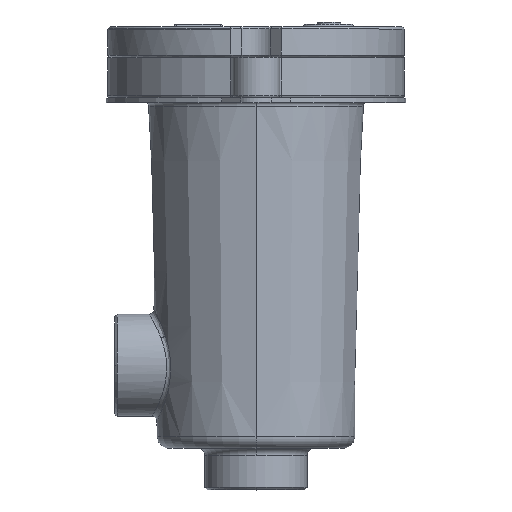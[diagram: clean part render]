
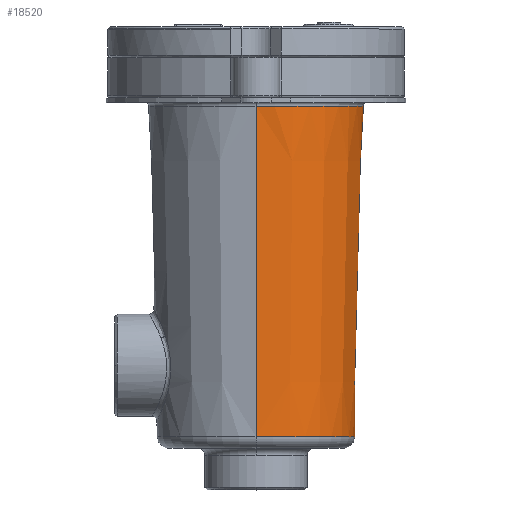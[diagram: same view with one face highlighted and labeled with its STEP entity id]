
A CAD part, top view. The second image highlights one B-rep face of the part: STEP entity #18520.
In plain terms, the highlighted conical face has half-angle 1.5 degrees and reference radius 41.571 mm.
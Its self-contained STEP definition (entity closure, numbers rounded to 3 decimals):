
#18370 = TOROIDAL_SURFACE('',#18371,47.215,2.);
#18371 = AXIS2_PLACEMENT_3D('',#18372,#18373,#18374);
#18372 = CARTESIAN_POINT('',(0.,161.5,0.));
#18373 = DIRECTION('',(-0.,-1.,-0.));
#18374 = DIRECTION('',(0.,0.,-1.));
#18414 = VERTEX_POINT('',#18415);
#18415 = CARTESIAN_POINT('',(0.,161.552,-45.216));
#18437 = EDGE_CURVE('',#18414,#18438,#18440,.T.);
#18438 = VERTEX_POINT('',#18439);
#18439 = CARTESIAN_POINT('',(0.,161.552,45.216));
#18440 = SURFACE_CURVE('',#18441,(#18446,#18453),.PCURVE_S1.);
#18441 = CIRCLE('',#18442,45.216);
#18442 = AXIS2_PLACEMENT_3D('',#18443,#18444,#18445);
#18443 = CARTESIAN_POINT('',(0.,161.552,0.));
#18444 = DIRECTION('',(0.,-1.,0.));
#18445 = DIRECTION('',(0.,0.,-1.));
#18446 = PCURVE('',#18370,#18447);
#18447 = DEFINITIONAL_REPRESENTATION('',(#18448),#18452);
#18448 = LINE('',#18449,#18450);
#18449 = CARTESIAN_POINT('',(0.,3.168));
#18450 = VECTOR('',#18451,1.);
#18451 = DIRECTION('',(1.,0.));
#18452 = ( GEOMETRIC_REPRESENTATION_CONTEXT(2) 
PARAMETRIC_REPRESENTATION_CONTEXT() REPRESENTATION_CONTEXT('2D SPACE',''
  ) );
#18453 = PCURVE('',#18454,#18459);
#18454 = CONICAL_SURFACE('',#18455,41.571,0.026);
#18455 = AXIS2_PLACEMENT_3D('',#18456,#18457,#18458);
#18456 = CARTESIAN_POINT('',(0.,22.369,0.));
#18457 = DIRECTION('',(0.,1.,0.));
#18458 = DIRECTION('',(0.,0.,1.));
#18459 = DEFINITIONAL_REPRESENTATION('',(#18460),#18464);
#18460 = LINE('',#18461,#18462);
#18461 = CARTESIAN_POINT('',(3.142,139.183));
#18462 = VECTOR('',#18463,1.);
#18463 = DIRECTION('',(-1.,0.));
#18464 = ( GEOMETRIC_REPRESENTATION_CONTEXT(2) 
PARAMETRIC_REPRESENTATION_CONTEXT() REPRESENTATION_CONTEXT('2D SPACE',''
  ) );
#18509 = CONICAL_SURFACE('',#18510,41.571,0.026);
#18510 = AXIS2_PLACEMENT_3D('',#18511,#18512,#18513);
#18511 = CARTESIAN_POINT('',(0.,22.369,0.));
#18512 = DIRECTION('',(0.,1.,0.));
#18513 = DIRECTION('',(0.,0.,1.));
#18520 = ADVANCED_FACE('',(#18521),#18454,.T.);
#18521 = FACE_BOUND('',#18522,.T.);
#18522 = EDGE_LOOP('',(#18523,#18554,#18575,#18576));
#18523 = ORIENTED_EDGE('',*,*,#18524,.F.);
#18524 = EDGE_CURVE('',#18525,#18527,#18529,.T.);
#18525 = VERTEX_POINT('',#18526);
#18526 = CARTESIAN_POINT('',(0.,22.369,-41.571));
#18527 = VERTEX_POINT('',#18528);
#18528 = CARTESIAN_POINT('',(0.,22.369,41.571));
#18529 = SURFACE_CURVE('',#18530,(#18535,#18542),.PCURVE_S1.);
#18530 = CIRCLE('',#18531,41.571);
#18531 = AXIS2_PLACEMENT_3D('',#18532,#18533,#18534);
#18532 = CARTESIAN_POINT('',(0.,22.369,0.));
#18533 = DIRECTION('',(0.,-1.,0.));
#18534 = DIRECTION('',(0.,0.,-1.));
#18535 = PCURVE('',#18454,#18536);
#18536 = DEFINITIONAL_REPRESENTATION('',(#18537),#18541);
#18537 = LINE('',#18538,#18539);
#18538 = CARTESIAN_POINT('',(3.142,0.));
#18539 = VECTOR('',#18540,1.);
#18540 = DIRECTION('',(-1.,0.));
#18541 = ( GEOMETRIC_REPRESENTATION_CONTEXT(2) 
PARAMETRIC_REPRESENTATION_CONTEXT() REPRESENTATION_CONTEXT('2D SPACE',''
  ) );
#18542 = PCURVE('',#18543,#18548);
#18543 = TOROIDAL_SURFACE('',#18544,36.573,5.);
#18544 = AXIS2_PLACEMENT_3D('',#18545,#18546,#18547);
#18545 = CARTESIAN_POINT('',(0.,22.5,0.));
#18546 = DIRECTION('',(-0.,-1.,-0.));
#18547 = DIRECTION('',(0.,0.,-1.));
#18548 = DEFINITIONAL_REPRESENTATION('',(#18549),#18553);
#18549 = LINE('',#18550,#18551);
#18550 = CARTESIAN_POINT('',(0.,0.026));
#18551 = VECTOR('',#18552,1.);
#18552 = DIRECTION('',(1.,0.));
#18553 = ( GEOMETRIC_REPRESENTATION_CONTEXT(2) 
PARAMETRIC_REPRESENTATION_CONTEXT() REPRESENTATION_CONTEXT('2D SPACE',''
  ) );
#18554 = ORIENTED_EDGE('',*,*,#18555,.T.);
#18555 = EDGE_CURVE('',#18525,#18414,#18556,.T.);
#18556 = SURFACE_CURVE('',#18557,(#18561,#18568),.PCURVE_S1.);
#18557 = LINE('',#18558,#18559);
#18558 = CARTESIAN_POINT('',(0.,22.369,-41.571));
#18559 = VECTOR('',#18560,1.);
#18560 = DIRECTION('',(0.,1.,-0.026));
#18561 = PCURVE('',#18454,#18562);
#18562 = DEFINITIONAL_REPRESENTATION('',(#18563),#18567);
#18563 = LINE('',#18564,#18565);
#18564 = CARTESIAN_POINT('',(3.142,-0.));
#18565 = VECTOR('',#18566,1.);
#18566 = DIRECTION('',(0.,1.));
#18567 = ( GEOMETRIC_REPRESENTATION_CONTEXT(2) 
PARAMETRIC_REPRESENTATION_CONTEXT() REPRESENTATION_CONTEXT('2D SPACE',''
  ) );
#18568 = PCURVE('',#18509,#18569);
#18569 = DEFINITIONAL_REPRESENTATION('',(#18570),#18574);
#18570 = LINE('',#18571,#18572);
#18571 = CARTESIAN_POINT('',(3.142,-0.));
#18572 = VECTOR('',#18573,1.);
#18573 = DIRECTION('',(0.,1.));
#18574 = ( GEOMETRIC_REPRESENTATION_CONTEXT(2) 
PARAMETRIC_REPRESENTATION_CONTEXT() REPRESENTATION_CONTEXT('2D SPACE',''
  ) );
#18575 = ORIENTED_EDGE('',*,*,#18437,.T.);
#18576 = ORIENTED_EDGE('',*,*,#18577,.F.);
#18577 = EDGE_CURVE('',#18527,#18438,#18578,.T.);
#18578 = SURFACE_CURVE('',#18579,(#18583,#18590),.PCURVE_S1.);
#18579 = LINE('',#18580,#18581);
#18580 = CARTESIAN_POINT('',(0.,22.369,41.571));
#18581 = VECTOR('',#18582,1.);
#18582 = DIRECTION('',(0.,1.,0.026));
#18583 = PCURVE('',#18454,#18584);
#18584 = DEFINITIONAL_REPRESENTATION('',(#18585),#18589);
#18585 = LINE('',#18586,#18587);
#18586 = CARTESIAN_POINT('',(0.,0.));
#18587 = VECTOR('',#18588,1.);
#18588 = DIRECTION('',(0.,1.));
#18589 = ( GEOMETRIC_REPRESENTATION_CONTEXT(2) 
PARAMETRIC_REPRESENTATION_CONTEXT() REPRESENTATION_CONTEXT('2D SPACE',''
  ) );
#18590 = PCURVE('',#18509,#18591);
#18591 = DEFINITIONAL_REPRESENTATION('',(#18592),#18596);
#18592 = LINE('',#18593,#18594);
#18593 = CARTESIAN_POINT('',(6.283,0.));
#18594 = VECTOR('',#18595,1.);
#18595 = DIRECTION('',(0.,1.));
#18596 = ( GEOMETRIC_REPRESENTATION_CONTEXT(2) 
PARAMETRIC_REPRESENTATION_CONTEXT() REPRESENTATION_CONTEXT('2D SPACE',''
  ) );
